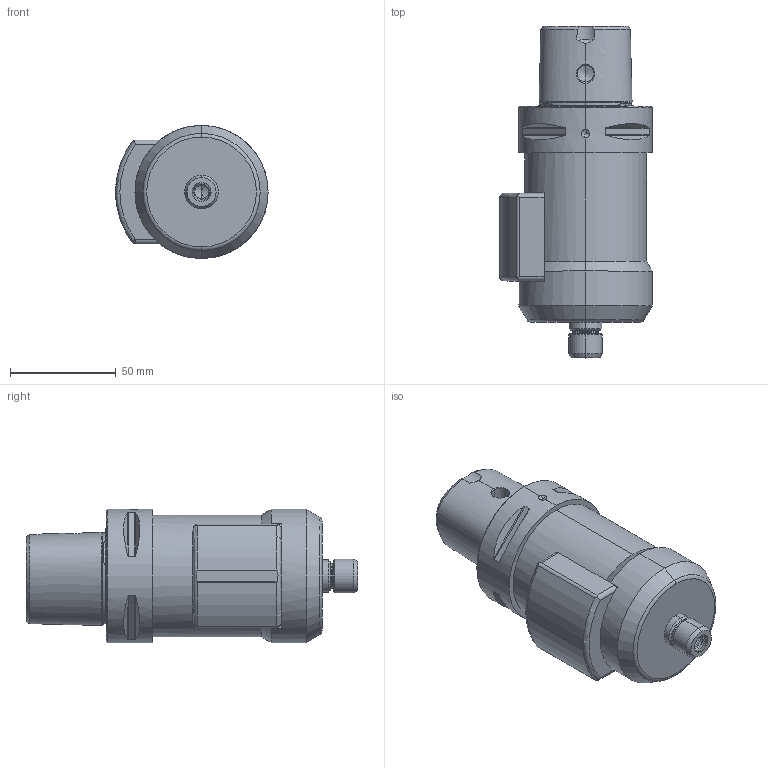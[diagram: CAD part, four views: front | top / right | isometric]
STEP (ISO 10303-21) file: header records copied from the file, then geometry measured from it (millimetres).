
FILE_DESCRIPTION (( 'STEP AP214' ), '1' );
FILE_NAME ('TJS-GJET-C6-Detail.STEP', '2018-05-01T06:05:45', ( '' ), ( '' ), 'SwSTEP 2.0', 'SolidWorks 2015', '' );
FILE_SCHEMA (( 'AUTOMOTIVE_DESIGN' ));
Length unit declared in the file: millimetre
Products named in the file (1): TJS-GJET-C6-Detail
Bounding box: 72.05 x 157.04 x 63 mm (x, y, z)
Volume: 340886.4 mm3; surface area: 40550.5 mm2
Topology: 1 solids, 1 shells, 176 faces, 417 edges, 244 vertices
Faces by surface type: cone 54, cylinder 52, plane 36, torus 18, bspline 14, sphere 2
Entity records: 10516 total; most frequent: CARTESIAN_POINT 6626, ORIENTED_EDGE 812, DIRECTION 792, EDGE_CURVE 406, AXIS2_PLACEMENT_3D 322, VERTEX_POINT 244, EDGE_LOOP 190, FACE_OUTER_BOUND 176
